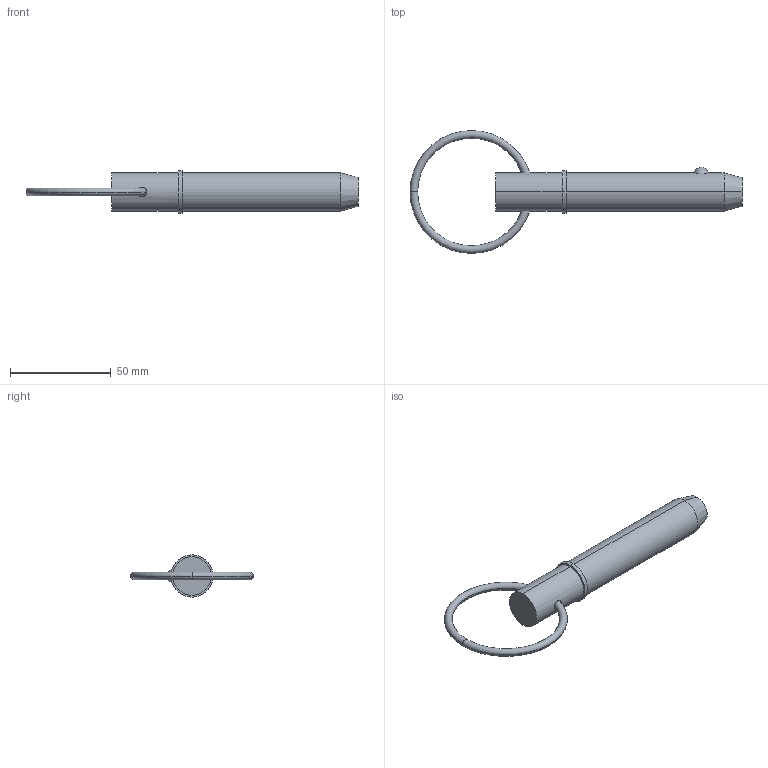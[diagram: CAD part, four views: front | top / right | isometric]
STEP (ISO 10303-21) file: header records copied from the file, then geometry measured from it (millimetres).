
FILE_DESCRIPTION (( 'STEP AP203' ), '1' );
FILE_NAME ('33014.W7525.step', '2024-11-04T08:35:26', ( '' ), ( '' ), 'SwSTEP 2.0', 'SolidWorks 2019', '' );
FILE_SCHEMA (( 'CONFIG_CONTROL_DESIGN' ));
Length unit declared in the file: millimetre
Products named in the file (3): Part2_33014.W7525; 33014.W7525; Part1_33014.W7525
Assembly tree (2 placements, depth 2):
  33014.W7525
    Part1_33014.W7525
    Part2_33014.W7525
Bounding box: 164.7 x 60.96 x 20.95 mm (x, y, z)
Volume: 36145 mm3; surface area: 10266.9 mm2
Topology: 2 solids, 2 shells, 22 faces, 43 edges, 26 vertices
Faces by surface type: torus 8, cylinder 6, plane 4, sphere 2, cone 2
Entity records: 1053 total; most frequent: CARTESIAN_POINT 276, DIRECTION 120, ORIENTED_EDGE 86, AXIS2_PLACEMENT_3D 56, EDGE_CURVE 43, CIRCLE 29, EDGE_LOOP 27, PERSON_AND_ORGANIZATION 26
